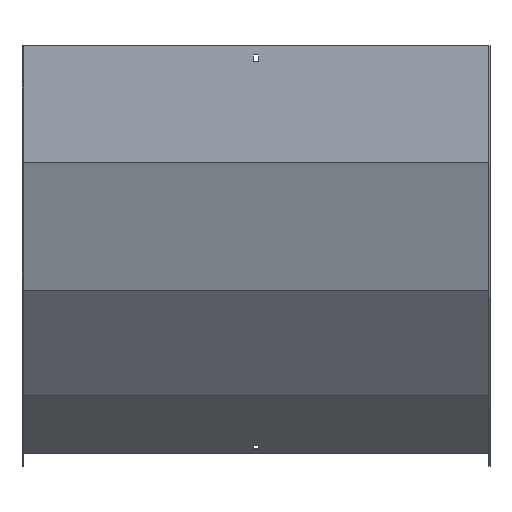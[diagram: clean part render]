
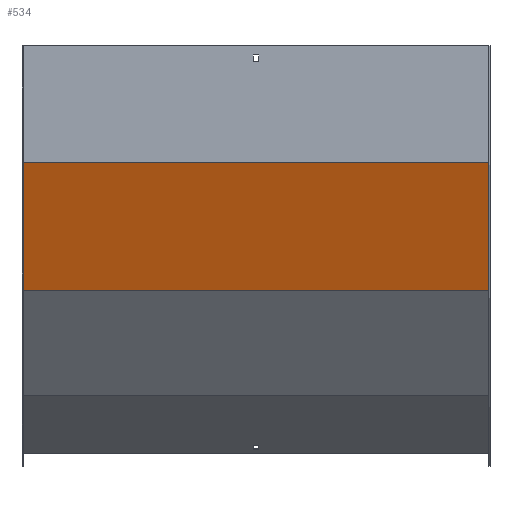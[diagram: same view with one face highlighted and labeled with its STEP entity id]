
A CAD part, front view. The second image highlights one B-rep face of the part: STEP entity #534.
In plain terms, the highlighted planar face has unit normal (0, -0.94, -0.342).
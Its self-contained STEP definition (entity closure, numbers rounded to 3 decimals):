
#37 = LINE ( 'NONE', #567, #869 ) ;
#55 = ORIENTED_EDGE ( 'NONE', *, *, #799, .T. ) ;
#96 = CARTESIAN_POINT ( 'NONE',  ( -300., -49.554, -18.036 ) ) ;
#97 = ORIENTED_EDGE ( 'NONE', *, *, #873, .F. ) ;
#162 = VERTEX_POINT ( 'NONE', #451 ) ;
#205 = FACE_OUTER_BOUND ( 'NONE', #810, .T. ) ;
#235 = DIRECTION ( 'NONE',  ( -1., 0., 0. ) ) ;
#307 = DIRECTION ( 'NONE',  ( 0., 0.342, -0.94 ) ) ;
#324 = VECTOR ( 'NONE', #307, 1000. ) ;
#340 = EDGE_CURVE ( 'NONE', #483, #407, #722, .T. ) ;
#345 = PLANE ( 'NONE',  #393 ) ;
#368 = VERTEX_POINT ( 'NONE', #448 ) ;
#372 = ORIENTED_EDGE ( 'NONE', *, *, #340, .T. ) ;
#393 = AXIS2_PLACEMENT_3D ( 'NONE', #750, #964, #415 ) ;
#407 = VERTEX_POINT ( 'NONE', #696 ) ;
#412 = DIRECTION ( 'NONE',  ( 0., 0.342, -0.94 ) ) ;
#415 = DIRECTION ( 'NONE',  ( 0., -0.342, 0.94 ) ) ;
#419 = VECTOR ( 'NONE', #500, 1000. ) ;
#424 = LINE ( 'NONE', #896, #419 ) ;
#448 = CARTESIAN_POINT ( 'NONE',  ( 300., 58.842, -315.854 ) ) ;
#451 = CARTESIAN_POINT ( 'NONE',  ( 300., -1.5, -150.064 ) ) ;
#483 = VERTEX_POINT ( 'NONE', #494 ) ;
#494 = CARTESIAN_POINT ( 'NONE',  ( -300., -1.5, -150.064 ) ) ;
#500 = DIRECTION ( 'NONE',  ( -1., 0., 0. ) ) ;
#534 = ADVANCED_FACE ( 'NONE', ( #205 ), #345, .F. ) ;
#567 = CARTESIAN_POINT ( 'NONE',  ( 300., -49.554, -18.036 ) ) ;
#583 = LINE ( 'NONE', #667, #805 ) ;
#599 = EDGE_CURVE ( 'NONE', #162, #368, #37, .T. ) ;
#609 = ORIENTED_EDGE ( 'NONE', *, *, #599, .F. ) ;
#667 = CARTESIAN_POINT ( 'NONE',  ( 301.5, -1.5, -150.064 ) ) ;
#696 = CARTESIAN_POINT ( 'NONE',  ( -300., 58.842, -315.854 ) ) ;
#722 = LINE ( 'NONE', #96, #324 ) ;
#750 = CARTESIAN_POINT ( 'NONE',  ( 301.5, -1.41, -150.313 ) ) ;
#799 = EDGE_CURVE ( 'NONE', #162, #483, #583, .T. ) ;
#805 = VECTOR ( 'NONE', #235, 1000. ) ;
#810 = EDGE_LOOP ( 'NONE', ( #372, #97, #609, #55 ) ) ;
#869 = VECTOR ( 'NONE', #412, 1000. ) ;
#873 = EDGE_CURVE ( 'NONE', #368, #407, #424, .T. ) ;
#896 = CARTESIAN_POINT ( 'NONE',  ( 301.5, 58.842, -315.854 ) ) ;
#964 = DIRECTION ( 'NONE',  ( 0., 0.94, 0.342 ) ) ;
